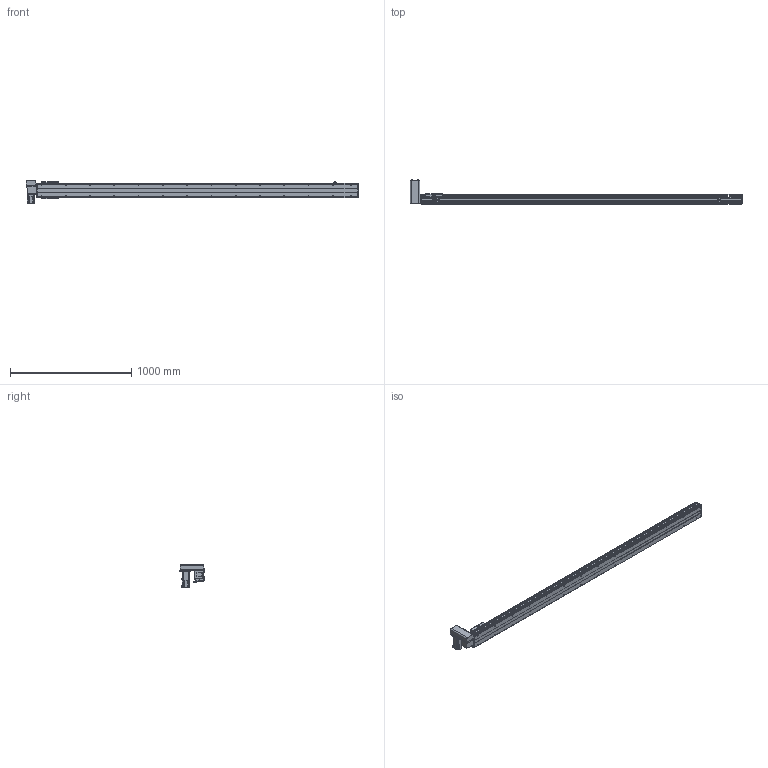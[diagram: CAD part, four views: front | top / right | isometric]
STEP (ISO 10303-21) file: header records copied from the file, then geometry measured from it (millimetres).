
FILE_DESCRIPTION( ( 'STEP AP214' ), '1' );
FILE_NAME( 'x:/temp/worker_27/temp/exporttempdir_6708_251_xndrP/format_0/PBS120-P40-S2350-RU-T40-C1-N(0).stp', '2022-06-06T00:51:23', ( 'License CC BY-ND 4.0' ), ( 'CADENAS' ), ' ', 'PARTsolutions', ' ' );
FILE_SCHEMA( ( 'AUTOMOTIVE_DESIGN { 1 0 10303 214 1 1 1 1 }' ) );
Length unit declared in the file: millimetre
Products named in the file (7): PBS120-P40-S2350-RU-T40-C1-N(0); _PBS120-S2350()_body; _PBS120T-RU_motors; _T40-p1; _PBS120_sliser; _PBS120_plant; _PBS120_sensor
Assembly tree (8 placements, depth 2):
  PBS120-P40-S2350-RU-T40-C1-N(0)
    _PBS120-S2350()_body
    _PBS120T-RU_motors
    _T40-p1
    _PBS120_sliser
    _PBS120_plant
    _PBS120_sensor  x3
Bounding box: 2736 x 198 x 189.7 mm (x, y, z)
Volume: 10355480.7 mm3; surface area: 2133258.5 mm2
Topology: 8 solids, 8 shells, 864 faces, 2216 edges, 1423 vertices
Faces by surface type: plane 561, cylinder 241, cone 60, torus 2
Full cylindrical faces by diameter (mm): 2.459 x6, 3.242 x4, 4 x2, 4.134 x4, 4.5 x10, 4.917 x32, 5.5 x11, 6 x2, 6.6 x1, 7 x2, 8.5 x4, 9 x4, 12 x1, 14 x1, 30 x2, 40 x1, 50 x2
Entity records: 28332 total; most frequent: DIRECTION 3884, CARTESIAN_POINT 3785, ORIENTED_EDGE 3574, EDGE_CURVE 1787, AXIS2_PLACEMENT_3D 1328, VERTEX_POINT 1229, LINE 1228, VECTOR 1228
